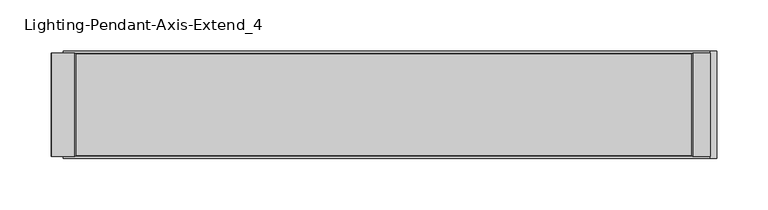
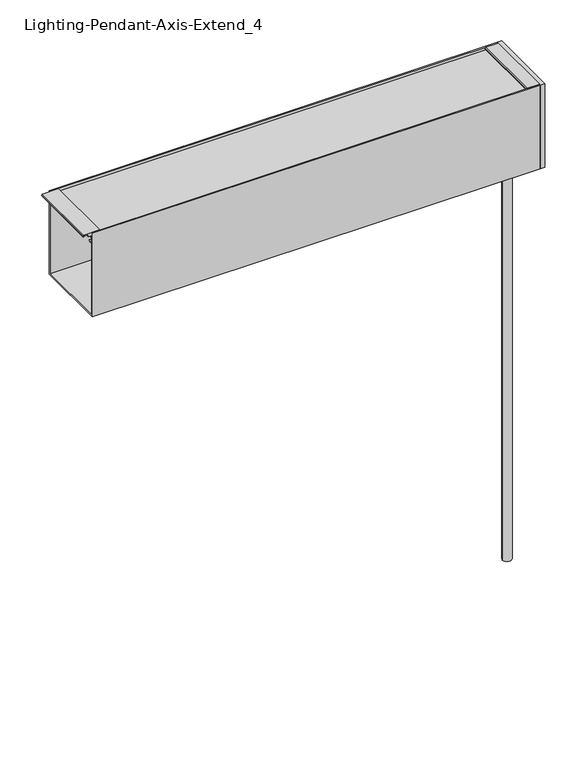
"""IFC4 building model written with IfcOpenShell, lengths in millimetres: light fixture geometry, Lighting-Pendant-Axis-Extend_4 : EX4PD-900-80-35-SO-4."""

from ifc_helpers import new_model, si_unit, point, frame, frame_2d, origin, place, context, project, spatial, polyline, circle_curve, trimmed, segment, composite_curve, outline, extrude, source, transform, mapped, element, save
from ifc_brep_helpers import plane_surface, cylinder_surface, advanced_brep


def lighting_pendant_axis_extend_4_d1321fe8(model_context):
    return source(origin(), model_context, "Body", "SolidModel", [
        extrude(outline(polyline([(733.2757861, -301.8536), (734.3775, -302.7781437), (734.3775, -325.1352563), (733.2757861, -326.0598), (731.80575, -326.0598), (731.80575, -325.26605), (732.5995, -325.26605), (732.5995, -318.7954), (729.7932981, -318.7954), (729.7932981, -309.118), (732.5995, -309.118), (732.5995, -302.64735), (731.80575, -302.64735), (731.80575, -301.8536), (733.2757861, -301.8536)])), frame((0.0, -50.75301, 0.0), z_axis=(0.0, 1.0, 0.0), x_axis=(0.0, 0.0, 1.0)), (0.0, 0.0, 1.0), 101.50602),
        extrude(outline(polyline([(733.2757861, 301.4726), (731.80575, 301.4726), (731.80575, 302.26635), (732.5995, 302.26635), (732.5995, 309.118), (729.7932981, 309.118), (729.7932981, 319.786), (734.3775, 319.786), (734.3775, 302.3971437), (733.2757861, 301.4726)])), frame((0.0, -50.75301, 0.0), z_axis=(0.0, 1.0, 0.0), x_axis=(0.0, 0.0, 1.0)), (0.0, 0.0, 1.0), 101.50602),
        extrude(outline(polyline([(319.786, -52.78501), (319.786, 52.78501), (326.136, 52.78501), (326.136, -52.78501), (319.786, -52.78501)])), frame((0.0, 0.0, 609.6), z_axis=(0.0, 0.0, 1.0), x_axis=(1.0, 0.0, 0.0)), (0.0, 0.0, 1.0), 124.7775),
        advanced_brep(
        [(309.372, 0.0, 609.6), (296.672, 0.0, 609.6), (303.022, 0.0, 609.6), (309.372, 0.0, 0.0), (296.672, 0.0, 0.0), (303.022, 0.0, 0.0)],
        [
            (0, 1, circle_curve(frame((303.022, 0.0, 609.6), z_axis=(0.0, 0.0, 1.0), x_axis=(-1.0, 0.0, 0.0)), 6.35)),
            (1, 2),
            (2, 0),
            (1, 0, circle_curve(frame((303.022, 0.0, 609.6), z_axis=(0.0, 0.0, 1.0), x_axis=(-1.0, 0.0, 0.0)), 6.35)),
            (3, 4, circle_curve(frame((303.022, 0.0, 0.0), z_axis=(0.0, 0.0, 1.0), x_axis=(-1.0, 0.0, 0.0)), 6.35)),
            (4, 1),
            (0, 3),
            (4, 3, circle_curve(frame((303.022, 0.0, 0.0), z_axis=(0.0, 0.0, 1.0), x_axis=(-1.0, 0.0, 0.0)), 6.35)),
            (5, 4),
            (3, 5),
        ],
        [
            plane_surface(frame((303.022, 0.0, 609.6), z_axis=(0.0, 0.0, 1.0), x_axis=(-1.0, 0.0, 0.0))),
            cylinder_surface(frame((303.022, 0.0, 2913.8581012), z_axis=(0.0, 0.0, -1.0), x_axis=(-1.0, 0.0, 0.0)), 6.35),
            plane_surface(frame((303.022, 0.0, 0.0), z_axis=(0.0, 0.0, -1.0), x_axis=(-1.0, 0.0, 0.0))),
        ],
        [
            (0, [[1, 2, 3]]),
            (0, [[4, -3, -2]]),
            (1, [[5, 6, -1, 7]]),
            (1, [[8, -7, -4, -6]]),
            (2, [[9, -5, 10]]),
            (2, [[-10, -8, -9]]),
        ],
    ),
        extrude(outline(composite_curve([segment(polyline([(-44.9537362, 729.4879991), (-45.2924281, 723.0253737)]), True, "CONTINUOUS"), segment(trimmed(circle_curve(frame_2d((-48.03521, 720.0265)), 4.064), [point((-45.2924281, 723.0253737))], [point((-46.1628914, 716.4194903))], False, "CARTESIAN"), True, "CONTINUOUS"), segment(trimmed(circle_curve(frame_2d((-42.930354, 717.2083457)), 3.3274001), [point((-46.1628914, 716.4194903))], [point((-45.3476056, 714.9217575))], True, "CARTESIAN"), True, "CONTINUOUS"), segment(trimmed(circle_curve(frame_2d((-37.9113277, 721.9560708)), 10.2362001), [point((-45.3476056, 714.9217575))], [point((-43.9929166, 713.7223555))], True, "CARTESIAN"), True, "CONTINUOUS"), segment(trimmed(circle_curve(frame_2d((-44.4833673, 713.0583462)), 0.8255), [point((-43.9929166, 713.7223555))], [point((-44.973818, 712.3943369))], False, "CARTESIAN"), True, "CONTINUOUS"), segment(trimmed(circle_curve(frame_2d((-37.9113269, 721.9560717)), 11.8872013), [point((-44.973818, 712.3943369))], [point((-46.5470052, 713.7871908))], False, "CARTESIAN"), True, "CONTINUOUS"), segment(trimmed(circle_curve(frame_2d((-42.930354, 717.2083457)), 4.9784001), [point((-46.5470052, 713.7871908))], [point((-47.8918907, 717.61776))], False, "CARTESIAN"), True, "CONTINUOUS"), segment(trimmed(circle_curve(frame_2d((-48.03521, 720.0265)), 2.413), [point((-47.8918907, 717.61776))], [point((-46.2564041, 721.6569658))], True, "CARTESIAN"), True, "CONTINUOUS"), segment(trimmed(circle_curve(frame_2d((-44.3839769, 723.3732456)), 2.54), [point((-46.2564041, 721.6569658))], [point((-46.9204959, 723.5061789))], False, "CARTESIAN"), True, "CONTINUOUS"), segment(polyline([(-46.9204959, 723.5061789), (-46.607002, 729.4879991), (-49.61001, 729.4879991), (-49.61001, 731.393), (49.61001, 731.393), (49.61001, 729.4879991), (46.607002, 729.4879991), (46.9204959, 723.5061789)]), True, "CONTINUOUS"), segment(trimmed(circle_curve(frame_2d((44.3839769, 723.3732456)), 2.54), [point((46.9204959, 723.5061789))], [point((46.2564041, 721.6569658))], False, "CARTESIAN"), True, "CONTINUOUS"), segment(trimmed(circle_curve(frame_2d((48.03521, 720.0265)), 2.413), [point((46.2564041, 721.6569658))], [point((47.8918907, 717.61776))], True, "CARTESIAN"), True, "CONTINUOUS"), segment(trimmed(circle_curve(frame_2d((42.930354, 717.2083457)), 4.9784001), [point((47.8918907, 717.61776))], [point((46.5470052, 713.7871908))], False, "CARTESIAN"), True, "CONTINUOUS"), segment(trimmed(circle_curve(frame_2d((37.9113269, 721.9560717)), 11.8872013), [point((46.5470052, 713.7871908))], [point((44.973818, 712.3943369))], False, "CARTESIAN"), True, "CONTINUOUS"), segment(trimmed(circle_curve(frame_2d((44.4833673, 713.0583462)), 0.8255), [point((44.973818, 712.3943369))], [point((43.9929166, 713.7223555))], False, "CARTESIAN"), True, "CONTINUOUS"), segment(trimmed(circle_curve(frame_2d((37.9113277, 721.9560708)), 10.2362001), [point((43.9929166, 713.7223555))], [point((45.3476056, 714.9217575))], True, "CARTESIAN"), True, "CONTINUOUS"), segment(trimmed(circle_curve(frame_2d((42.930354, 717.2083457)), 3.3274001), [point((45.3476056, 714.9217575))], [point((46.1628914, 716.4194903))], True, "CARTESIAN"), True, "CONTINUOUS"), segment(trimmed(circle_curve(frame_2d((48.03521, 720.0265)), 4.064), [point((46.1628914, 716.4194903))], [point((45.2924281, 723.0253737))], False, "CARTESIAN"), True, "CONTINUOUS"), segment(polyline([(45.2924281, 723.0253737), (44.9537362, 729.4879991), (-44.9537362, 729.4879991)]), True, "CONTINUOUS")], self_intersect=False)), frame((-304.8, 0.0, 0.0), z_axis=(1.0, 0.0, 0.0), x_axis=(0.0, 1.0, 0.0)), (0.0, 0.0, 1.0), 609.6),
        extrude(outline(composite_curve([segment(polyline([(-50.75301, 719.4677), (-50.75301, 611.632), (50.75301, 611.632), (50.75301, 719.4677), (48.9135897, 719.4677)]), True, "CONTINUOUS"), segment(trimmed(circle_curve(frame_2d((47.4072397, 719.4677)), 1.5063501), [point((48.9135897, 719.4677))], [point((46.6540646, 718.1631626))], False, "CARTESIAN"), True, "CONTINUOUS"), segment(trimmed(circle_curve(frame_2d((47.8452221, 720.2263079)), 2.382315), [point((46.6540646, 718.1631626))], [point((45.4706616, 720.4183682))], False, "CARTESIAN"), True, "CONTINUOUS"), segment(polyline([(45.4706616, 720.4183682), (48.84801, 723.2523), (48.84801, 721.4997), (50.75301, 721.4997), (50.75301, 728.0275), (48.84801, 728.0275), (48.84801, 726.5035), (47.19701, 726.5900252), (47.19701, 729.2975), (50.75301, 729.2975), (50.75301, 734.3775), (52.78501, 734.3775), (52.78501, 609.6), (-52.78501, 609.6), (-52.78501, 734.3775), (-50.75301, 734.3775), (-50.75301, 729.2975), (-47.19701, 729.2975), (-47.19701, 726.5900252), (-48.84801, 726.5035), (-48.84801, 728.0275), (-50.75301, 728.0275), (-50.75301, 721.4997), (-48.84801, 721.4997), (-48.84801, 723.2523), (-45.4706616, 720.4183682)]), True, "CONTINUOUS"), segment(trimmed(circle_curve(frame_2d((-47.8452221, 720.2263079)), 2.382315), [point((-45.4706616, 720.4183682))], [point((-46.6540646, 718.1631626))], False, "CARTESIAN"), True, "CONTINUOUS"), segment(trimmed(circle_curve(frame_2d((-47.4072397, 719.4677)), 1.5063501), [point((-46.6540646, 718.1631626))], [point((-48.9135897, 719.4677))], False, "CARTESIAN"), True, "CONTINUOUS"), segment(polyline([(-48.9135897, 719.4677), (-50.75301, 719.4677)]), True, "CONTINUOUS")], self_intersect=False)), frame((-313.9567, 0.0, 0.0), z_axis=(1.0, 0.0, 0.0), x_axis=(0.0, 1.0, 0.0)), (0.0, 0.0, 1.0), 633.7427),
    ])


if __name__ == "__main__":
    model = new_model("IFC4")
    model_context = context("Model", 3, world=origin())
    ifc_project = project(units=[si_unit("LENGTHUNIT", "METRE", prefix="MILLI")], contexts=[model_context])
    site = spatial("IfcSite", under=ifc_project)
    building = spatial("IfcBuilding", under=site)
    placement = place(None, origin())
    lighting_pendant_axis_extend_4_shape = lighting_pendant_axis_extend_4_d1321fe8(model_context)
    element("IfcLightFixture", 1, ObjectType="Lighting-Pendant-Axis-Extend_4 : EX4PD-900-80-35-SO-4", at=placement, inside=building, context=model_context, shape_type="MappedRepresentation", body=[
        mapped(lighting_pendant_axis_extend_4_shape, transform((0.0, 0.0, 0.0), x_axis=(1.0, 0.0, 0.0), y_axis=(0.0, 1.0, 0.0), z_axis=(0.0, 0.0, 1.0))),
    ])
    save(model, "model.ifc")
